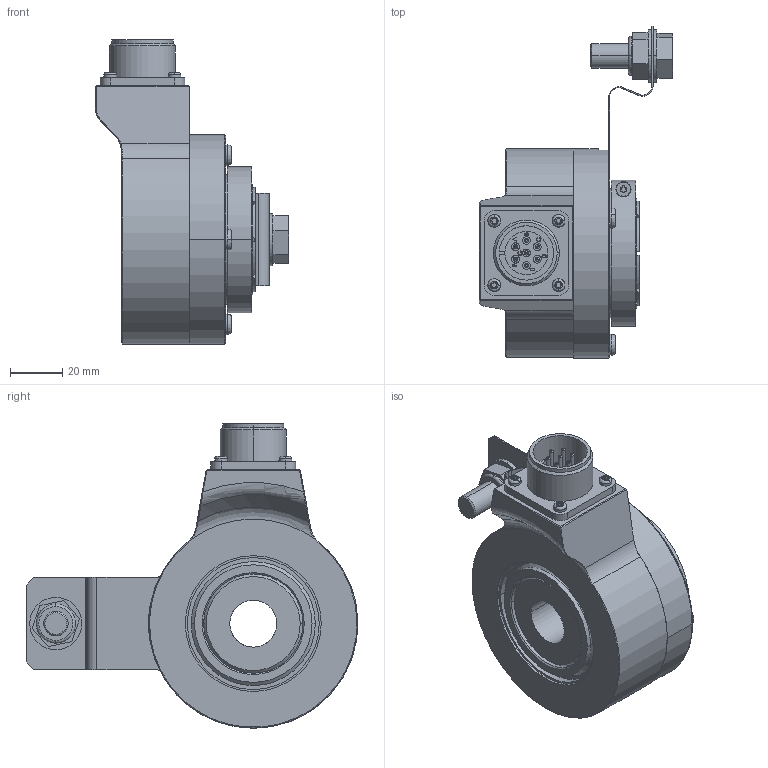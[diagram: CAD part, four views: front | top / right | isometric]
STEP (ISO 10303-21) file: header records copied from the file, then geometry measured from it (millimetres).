
FILE_DESCRIPTION (( 'STEP AP203' ), '1' );
FILE_NAME ('K80I.OXX.XXXXX.XH24818.6XRCD.step', '2025-12-09T10:29:29', ( '' ), ( '' ), 'SwSTEP 2.0', 'SolidWorks 2021', '' );
FILE_SCHEMA (( 'CONFIG_CONTROL_DESIGN' ));
Length unit declared in the file: millimetre
Products named in the file (1): K80I.OXX.XXXXX.XH24818.6XRCD
Bounding box: 73.95 x 127.03 x 116.58 mm (x, y, z)
Volume: 244963.9 mm3; surface area: 86251.1 mm2
Topology: 8 solids, 10 shells, 756 faces, 1934 edges, 1253 vertices
Faces by surface type: cylinder 342, plane 289, bspline 56, cone 41, torus 28
Entity records: 28164 total; most frequent: CARTESIAN_POINT 9539, DIRECTION 3928, ORIENTED_EDGE 3852, EDGE_CURVE 1926, AXIS2_PLACEMENT_3D 1497, VERTEX_POINT 1253, VECTOR 934, LINE 934
